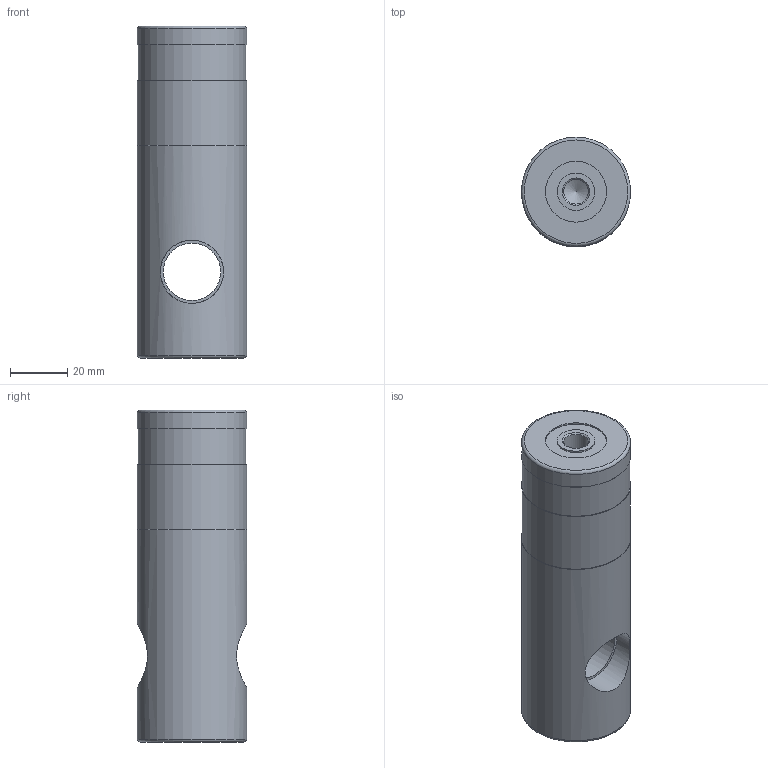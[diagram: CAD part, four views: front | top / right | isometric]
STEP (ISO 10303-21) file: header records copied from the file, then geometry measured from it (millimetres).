
FILE_DESCRIPTION(('STEP AP242'),'1');
FILE_NAME('A.6020_S Feststellpatrone.stp','2026-04-23T09:34:59',(' '),(' '),'Spatial InterOp 3D',' ',' ');
FILE_SCHEMA(('AP242_MANAGED_MODEL_BASED_3D_ENGINEERING_MIM_LF {1 0 10303 442 1 1 4}'));
Length unit declared in the file: millimetre
Products named in the file (1): A.6020_S Feststellpatrone
Bounding box: 38 x 38 x 115.5 mm (x, y, z)
Volume: 117093.4 mm3; surface area: 17991.4 mm2
Topology: 1 solids, 1 shells, 25 faces, 45 edges, 28 vertices
Faces by surface type: cylinder 11, plane 8, cone 4, torus 2
Full cylindrical faces by diameter (mm): 8.566 x2, 13 x1, 20 x1, 21.2 x1, 22 x2, 37.5 x1, 38 x3
Entity records: 991 total; most frequent: CARTESIAN_POINT 271, DIRECTION 98, EDGE_LOOP 50, ORIENTED_EDGE 50, AXIS2_PLACEMENT_3D 49, FACE_OUTER_BOUND 38, STYLED_ITEM 26, PRESENTATION_STYLE_ASSIGNMENT 26
